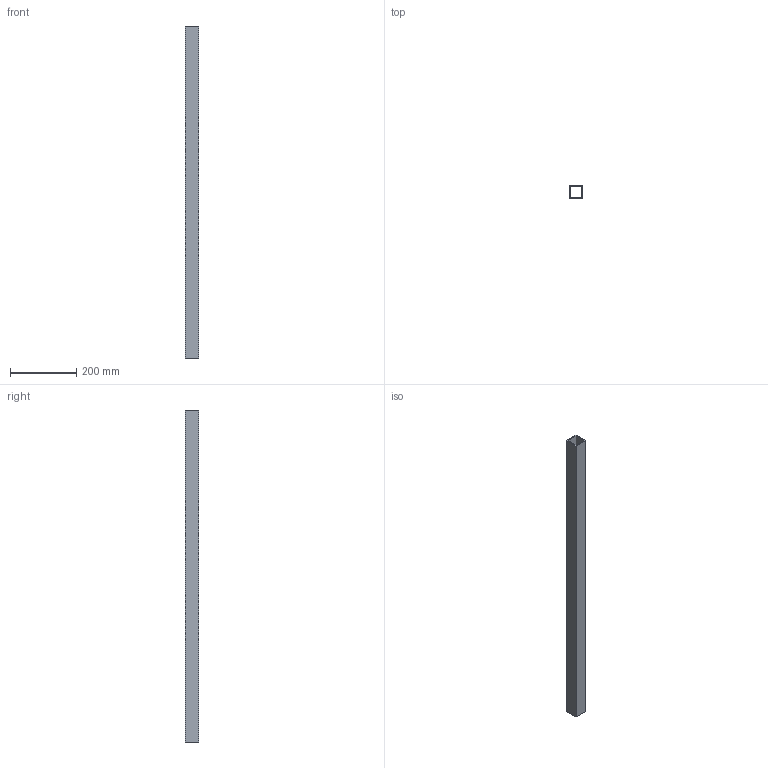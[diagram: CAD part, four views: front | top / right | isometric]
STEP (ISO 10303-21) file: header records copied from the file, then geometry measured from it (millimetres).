
FILE_DESCRIPTION(('Open CASCADE Model'),'2;1');
FILE_NAME('Open CASCADE Shape Model','2026-10-19T10:09:27',('Author'),( 'Open CASCADE'),'Open CASCADE STEP processor 8.0','Open CASCADE 8.0' ,'Unknown');
FILE_SCHEMA(('AUTOMOTIVE_DESIGN { 1 0 10303 214 1 1 1 1 }'));
Length unit declared in the file: millimetre
Products named in the file (1): AC_SHS40x40x3_L1005000 179
Bounding box: 40 x 40 x 1005 mm (x, y, z)
Volume: 446220 mm3; surface area: 298368 mm2
Topology: 1 solids, 1 shells, 10 faces, 24 edges, 16 vertices
Faces by surface type: plane 10
Entity records: 614 total; most frequent: CARTESIAN_POINT 99, DIRECTION 94, LINE 72, VECTOR 72, ORIENTED_EDGE 48, PCURVE 48, DEFINITIONAL_REPRESENTATION 48, EDGE_CURVE 24
